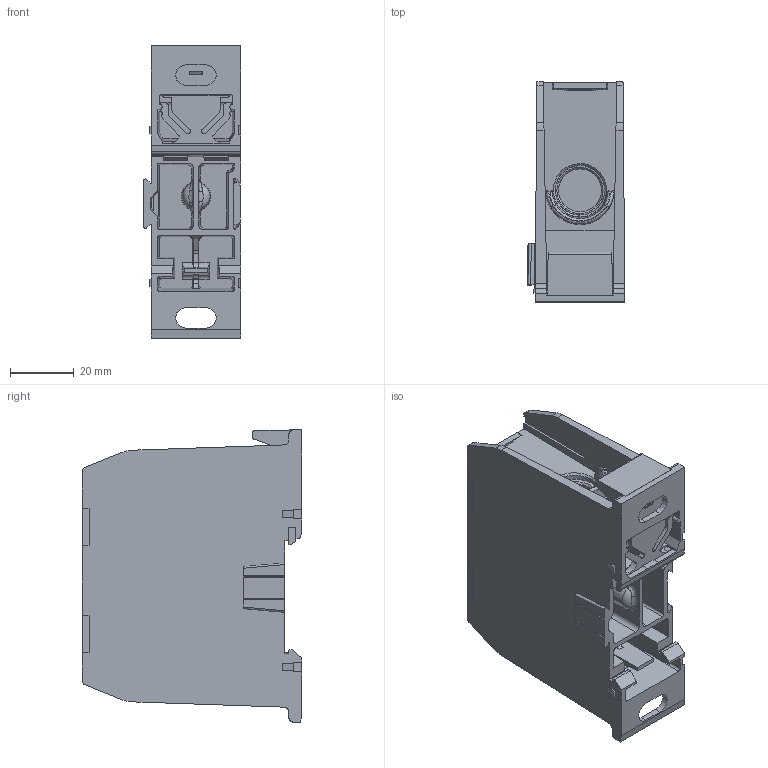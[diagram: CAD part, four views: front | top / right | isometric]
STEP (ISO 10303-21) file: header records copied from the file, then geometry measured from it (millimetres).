
FILE_DESCRIPTION (( 'STEP AP214' ), '1' );
FILE_NAME ('EPBAD42.STEP', '2013-02-08T19:37:53', ( 'RBC' ), ( 'RBC' ), 'SwSTEP 2.0', 'SolidWorks 2011', '' );
FILE_SCHEMA (( 'AUTOMOTIVE_DESIGN' ));
Length unit declared in the file: inch
Products named in the file (8): 9800137-03; 979926X_Cosmetic Th''d metric; 98125XX_9812548; 9800137-02_Splicer; 9800137-01_Line Side; 9800130; EPBAD42; 98348XX_Copper Conn
Assembly tree (9 placements, depth 2):
  EPBAD42
    98348XX_Copper Conn
    979926X_Cosmetic Th''d metric  x2
    9800137-01_Line Side  x2
    9800137-02_Splicer
    9800137-03
    9800130
    98125XX_9812548
Bounding box: 30.7 x 68.92 x 91.72 mm (x, y, z)
Volume: 71567.1 mm3; surface area: 55255.6 mm2
Topology: 9 solids, 9 shells, 886 faces, 2413 edges, 1566 vertices
Faces by surface type: plane 557, cylinder 182, cone 64, bspline 55, torus 22, sphere 6
Entity records: 29545 total; most frequent: CARTESIAN_POINT 9616, ORIENTED_EDGE 4412, DIRECTION 3656, EDGE_CURVE 2206, VECTOR 1580, LINE 1580, VERTEX_POINT 1438, AXIS2_PLACEMENT_3D 1038
